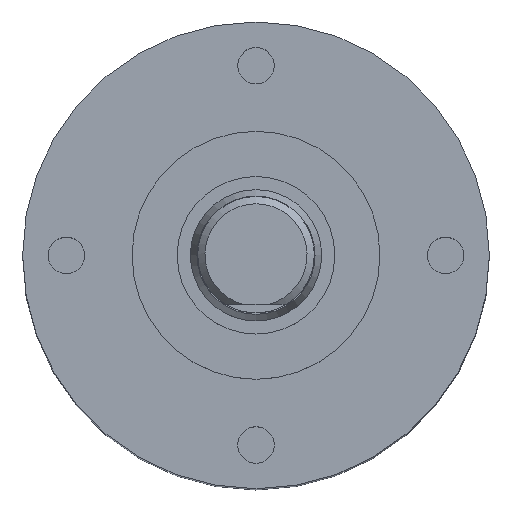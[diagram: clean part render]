
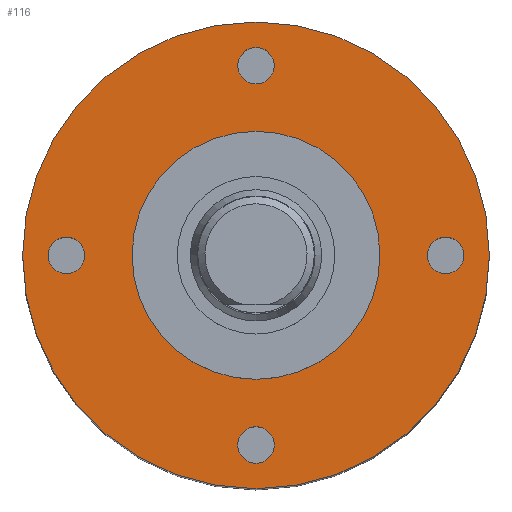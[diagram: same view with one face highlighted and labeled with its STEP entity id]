
A CAD part, top view. The second image highlights one B-rep face of the part: STEP entity #116.
In plain terms, the highlighted planar face has unit normal (0, 0, 1).
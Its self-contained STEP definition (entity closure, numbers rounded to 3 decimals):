
#34=PLANE('',#545);
#56=FACE_BOUND('',#182,.T.);
#57=FACE_BOUND('',#183,.T.);
#58=FACE_BOUND('',#184,.T.);
#59=FACE_BOUND('',#185,.T.);
#60=FACE_BOUND('',#186,.T.);
#61=FACE_BOUND('',#187,.T.);
#116=ADVANCED_FACE('',(#56,#57,#58,#59,#60,#61),#34,.T.);
#182=EDGE_LOOP('',(#267));
#183=EDGE_LOOP('',(#268));
#184=EDGE_LOOP('',(#269));
#185=EDGE_LOOP('',(#270));
#186=EDGE_LOOP('',(#271));
#187=EDGE_LOOP('',(#272));
#267=ORIENTED_EDGE('',*,*,#389,.T.);
#268=ORIENTED_EDGE('',*,*,#390,.T.);
#269=ORIENTED_EDGE('',*,*,#391,.T.);
#270=ORIENTED_EDGE('',*,*,#392,.T.);
#271=ORIENTED_EDGE('',*,*,#393,.F.);
#272=ORIENTED_EDGE('',*,*,#387,.T.);
#348=VERTEX_POINT('',#810);
#350=VERTEX_POINT('',#816);
#351=VERTEX_POINT('',#818);
#352=VERTEX_POINT('',#820);
#353=VERTEX_POINT('',#822);
#354=VERTEX_POINT('',#824);
#387=EDGE_CURVE('',#348,#348,#457,.T.);
#389=EDGE_CURVE('',#350,#350,#459,.T.);
#390=EDGE_CURVE('',#351,#351,#460,.T.);
#391=EDGE_CURVE('',#352,#352,#461,.T.);
#392=EDGE_CURVE('',#353,#353,#462,.T.);
#393=EDGE_CURVE('',#354,#354,#463,.T.);
#457=CIRCLE('',#536,16.);
#459=CIRCLE('',#540,1.25);
#460=CIRCLE('',#541,1.25);
#461=CIRCLE('',#542,1.25);
#462=CIRCLE('',#543,1.25);
#463=CIRCLE('',#544,8.5);
#536=AXIS2_PLACEMENT_3D('',#809,#638,#639);
#540=AXIS2_PLACEMENT_3D('',#815,#646,#647);
#541=AXIS2_PLACEMENT_3D('',#817,#648,#649);
#542=AXIS2_PLACEMENT_3D('',#819,#650,#651);
#543=AXIS2_PLACEMENT_3D('',#821,#652,#653);
#544=AXIS2_PLACEMENT_3D('',#823,#654,#655);
#545=AXIS2_PLACEMENT_3D('',#825,#656,#657);
#638=DIRECTION('',(0.,0.,1.));
#639=DIRECTION('',(1.,0.,0.));
#646=DIRECTION('',(0.,0.,-1.));
#647=DIRECTION('',(0.,-1.,0.));
#648=DIRECTION('',(0.,0.,-1.));
#649=DIRECTION('',(1.,0.,0.));
#650=DIRECTION('',(0.,0.,-1.));
#651=DIRECTION('',(0.,1.,0.));
#652=DIRECTION('',(0.,0.,-1.));
#653=DIRECTION('',(-1.,0.,0.));
#654=DIRECTION('',(0.,0.,1.));
#655=DIRECTION('',(1.,0.,0.));
#656=DIRECTION('',(0.,0.,1.));
#657=DIRECTION('',(1.,0.,0.));
#809=CARTESIAN_POINT('',(0.,0.,49.4));
#810=CARTESIAN_POINT('',(16.,0.,49.4));
#815=CARTESIAN_POINT('',(-13.,0.,49.4));
#816=CARTESIAN_POINT('',(-13.,-1.25,49.4));
#817=CARTESIAN_POINT('',(0.,-13.,49.4));
#818=CARTESIAN_POINT('',(1.25,-13.,49.4));
#819=CARTESIAN_POINT('',(13.,0.,49.4));
#820=CARTESIAN_POINT('',(13.,1.25,49.4));
#821=CARTESIAN_POINT('',(0.,13.,49.4));
#822=CARTESIAN_POINT('',(-1.25,13.,49.4));
#823=CARTESIAN_POINT('',(0.,0.,49.4));
#824=CARTESIAN_POINT('',(8.5,0.,49.4));
#825=CARTESIAN_POINT('',(0.,0.,49.4));
